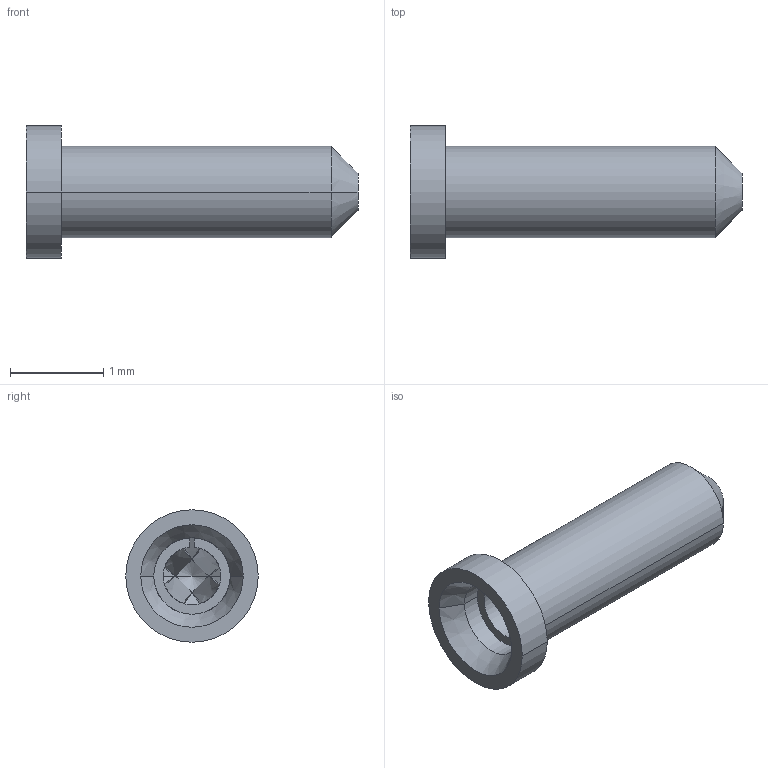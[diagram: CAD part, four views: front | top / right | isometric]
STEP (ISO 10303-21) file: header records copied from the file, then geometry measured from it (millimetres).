
FILE_DESCRIPTION((''),'2;1');
FILE_NAME('H3153-XX_ASM','2012-06-08T',('wbourne'),(''),'PRO/ENGINEER BY PARAMETRIC TECHNOLOGY CORPORATION, 2011490','PRO/ENGINEER BY PARAMETRIC TECHNOLOGY CORPORATION, 2011490','');
FILE_SCHEMA(('CONFIG_CONTROL_DESIGN','SHAPE_APPEARANCE_LAYERS_GROUPS'));
Length unit declared in the file: millimetre
Products named in the file (3): H3154-XX_ALT_END; H3153_CLIP; H3153-XX_ASM
Assembly tree (2 placements, depth 2):
  H3153-XX_ASM
    H3154-XX_ALT_END
    H3153_CLIP
Bounding box: 3.56 x 1.42 x 1.42 mm (x, y, z)
Volume: 1.4 mm3; surface area: 28.6 mm2
Topology: 2 solids, 2 shells, 79 faces, 184 edges, 109 vertices
Faces by surface type: bspline 45, plane 20, cylinder 8, cone 6
Entity records: 3903 total; most frequent: CARTESIAN_POINT 1755, ORIENTED_EDGE 364, DIRECTION 212, PRESENTATION_STYLE_ASSIGNMENT 184, STYLED_ITEM 184, CURVE_STYLE 182, EDGE_CURVE 182, VERTEX_POINT 109
